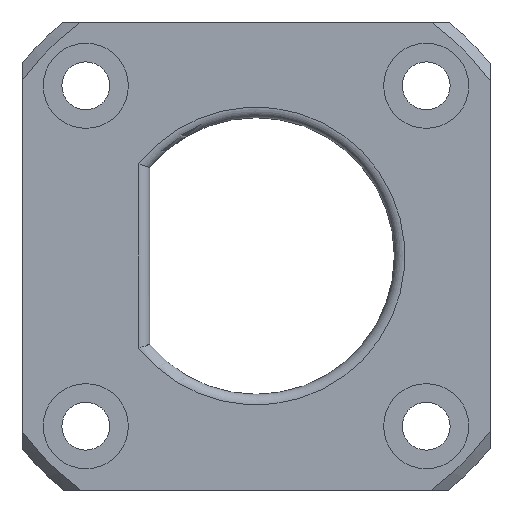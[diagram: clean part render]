
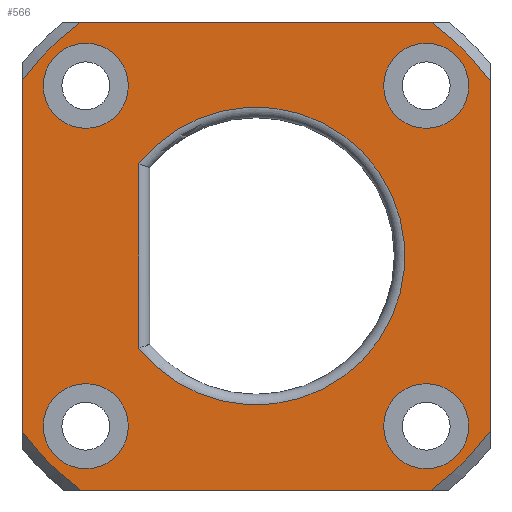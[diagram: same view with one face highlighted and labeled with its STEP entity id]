
A CAD part, left-side view. The second image highlights one B-rep face of the part: STEP entity #566.
In plain terms, the highlighted planar face has unit normal (-1, 0, 0).
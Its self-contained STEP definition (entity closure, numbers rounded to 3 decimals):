
#32=FACE_BOUND('',#151,.T.);
#33=FACE_BOUND('',#152,.T.);
#34=FACE_BOUND('',#153,.T.);
#35=FACE_BOUND('',#154,.T.);
#36=FACE_BOUND('',#155,.T.);
#53=CIRCLE('',#628,27.5);
#54=CIRCLE('',#630,27.5);
#55=CIRCLE('',#632,27.5);
#60=CIRCLE('',#643,14.);
#61=CIRCLE('',#645,27.5);
#62=CIRCLE('',#646,4.);
#63=CIRCLE('',#647,4.);
#64=CIRCLE('',#648,4.);
#65=CIRCLE('',#649,4.);
#109=FACE_OUTER_BOUND('',#150,.T.);
#150=EDGE_LOOP('',(#463,#464,#465,#466,#467,#468,#469,#470));
#151=EDGE_LOOP('',(#471));
#152=EDGE_LOOP('',(#472));
#153=EDGE_LOOP('',(#473));
#154=EDGE_LOOP('',(#474));
#155=EDGE_LOOP('',(#475,#476));
#187=LINE('',#863,#219);
#191=LINE('',#880,#223);
#195=LINE('',#897,#227);
#199=LINE('',#914,#231);
#206=LINE('',#995,#238);
#219=VECTOR('',#683,10.);
#223=VECTOR('',#689,10.);
#227=VECTOR('',#695,10.);
#231=VECTOR('',#701,10.);
#238=VECTOR('',#768,10.);
#252=VERTEX_POINT('',#858);
#253=VERTEX_POINT('',#862);
#258=VERTEX_POINT('',#875);
#259=VERTEX_POINT('',#879);
#264=VERTEX_POINT('',#892);
#265=VERTEX_POINT('',#896);
#270=VERTEX_POINT('',#909);
#271=VERTEX_POINT('',#913);
#285=VERTEX_POINT('',#993);
#286=VERTEX_POINT('',#994);
#287=VERTEX_POINT('',#1027);
#288=VERTEX_POINT('',#1029);
#289=VERTEX_POINT('',#1031);
#290=VERTEX_POINT('',#1033);
#303=EDGE_CURVE('',#253,#252,#187,.T.);
#309=EDGE_CURVE('',#259,#258,#191,.T.);
#315=EDGE_CURVE('',#265,#264,#195,.T.);
#321=EDGE_CURVE('',#271,#270,#199,.T.);
#336=EDGE_CURVE('',#265,#270,#53,.T.);
#337=EDGE_CURVE('',#253,#264,#54,.T.);
#338=EDGE_CURVE('',#271,#258,#55,.T.);
#349=EDGE_CURVE('',#285,#286,#206,.T.);
#353=EDGE_CURVE('',#286,#285,#60,.T.);
#354=EDGE_CURVE('',#259,#252,#61,.T.);
#355=EDGE_CURVE('',#287,#287,#62,.T.);
#356=EDGE_CURVE('',#288,#288,#63,.T.);
#357=EDGE_CURVE('',#289,#289,#64,.T.);
#358=EDGE_CURVE('',#290,#290,#65,.T.);
#463=ORIENTED_EDGE('',*,*,#303,.T.);
#464=ORIENTED_EDGE('',*,*,#354,.F.);
#465=ORIENTED_EDGE('',*,*,#309,.T.);
#466=ORIENTED_EDGE('',*,*,#338,.F.);
#467=ORIENTED_EDGE('',*,*,#321,.T.);
#468=ORIENTED_EDGE('',*,*,#336,.F.);
#469=ORIENTED_EDGE('',*,*,#315,.T.);
#470=ORIENTED_EDGE('',*,*,#337,.F.);
#471=ORIENTED_EDGE('',*,*,#355,.T.);
#472=ORIENTED_EDGE('',*,*,#356,.T.);
#473=ORIENTED_EDGE('',*,*,#357,.T.);
#474=ORIENTED_EDGE('',*,*,#358,.T.);
#475=ORIENTED_EDGE('',*,*,#349,.F.);
#476=ORIENTED_EDGE('',*,*,#353,.F.);
#544=PLANE('',#644);
#566=ADVANCED_FACE('',(#109,#32,#33,#34,#35,#36),#544,.T.);
#628=AXIS2_PLACEMENT_3D('',#942,#737,#738);
#630=AXIS2_PLACEMENT_3D('',#944,#741,#742);
#632=AXIS2_PLACEMENT_3D('',#946,#745,#746);
#643=AXIS2_PLACEMENT_3D('',#1024,#773,#774);
#644=AXIS2_PLACEMENT_3D('',#1025,#775,#776);
#645=AXIS2_PLACEMENT_3D('',#1026,#777,#778);
#646=AXIS2_PLACEMENT_3D('',#1028,#779,#780);
#647=AXIS2_PLACEMENT_3D('',#1030,#781,#782);
#648=AXIS2_PLACEMENT_3D('',#1032,#783,#784);
#649=AXIS2_PLACEMENT_3D('',#1034,#785,#786);
#683=DIRECTION('',(0.,1.,0.));
#689=DIRECTION('',(0.,0.,-1.));
#695=DIRECTION('',(0.,0.,1.));
#701=DIRECTION('',(0.,-1.,0.));
#737=DIRECTION('center_axis',(1.,0.,0.));
#738=DIRECTION('ref_axis',(0.,0.,-1.));
#741=DIRECTION('center_axis',(1.,0.,0.));
#742=DIRECTION('ref_axis',(0.,0.,-1.));
#745=DIRECTION('center_axis',(1.,0.,0.));
#746=DIRECTION('ref_axis',(0.,0.,-1.));
#768=DIRECTION('',(0.,0.,-1.));
#773=DIRECTION('center_axis',(-1.,0.,0.));
#774=DIRECTION('ref_axis',(0.,-1.,0.));
#775=DIRECTION('center_axis',(-1.,0.,0.));
#776=DIRECTION('ref_axis',(0.,0.,1.));
#777=DIRECTION('center_axis',(1.,0.,0.));
#778=DIRECTION('ref_axis',(0.,0.,-1.));
#779=DIRECTION('center_axis',(1.,0.,0.));
#780=DIRECTION('ref_axis',(0.,0.,1.));
#781=DIRECTION('center_axis',(1.,0.,0.));
#782=DIRECTION('ref_axis',(0.,-1.,0.));
#783=DIRECTION('center_axis',(1.,0.,0.));
#784=DIRECTION('ref_axis',(0.,0.,-1.));
#785=DIRECTION('center_axis',(1.,0.,0.));
#786=DIRECTION('ref_axis',(0.,1.,0.));
#858=CARTESIAN_POINT('',(0.,16.5,22.));
#862=CARTESIAN_POINT('',(0.,-16.5,22.));
#863=CARTESIAN_POINT('',(0.,4.691,22.));
#875=CARTESIAN_POINT('',(0.,22.,-16.5));
#879=CARTESIAN_POINT('',(0.,22.,16.5));
#880=CARTESIAN_POINT('',(0.,22.,9.059));
#892=CARTESIAN_POINT('',(0.,-22.,16.5));
#896=CARTESIAN_POINT('',(0.,-22.,-16.5));
#897=CARTESIAN_POINT('',(0.,-22.,-9.059));
#909=CARTESIAN_POINT('',(0.,-16.5,-22.));
#913=CARTESIAN_POINT('',(0.,16.5,-22.));
#914=CARTESIAN_POINT('',(0.,22.809,-22.));
#942=CARTESIAN_POINT('Origin',(0.,0.,0.));
#944=CARTESIAN_POINT('Origin',(0.,0.,0.));
#946=CARTESIAN_POINT('Origin',(0.,0.,0.));
#993=CARTESIAN_POINT('',(0.,11.,8.66));
#994=CARTESIAN_POINT('',(0.,11.,-8.66));
#995=CARTESIAN_POINT('',(0.,11.,-4.153));
#1024=CARTESIAN_POINT('Origin',(0.,0.,0.));
#1025=CARTESIAN_POINT('Origin',(0.,27.5,0.));
#1026=CARTESIAN_POINT('Origin',(0.,0.,0.));
#1027=CARTESIAN_POINT('',(0.,16.,12.));
#1028=CARTESIAN_POINT('Origin',(0.,16.,16.));
#1029=CARTESIAN_POINT('',(0.,-12.,16.));
#1030=CARTESIAN_POINT('Origin',(0.,-16.,16.));
#1031=CARTESIAN_POINT('',(0.,-16.,-12.));
#1032=CARTESIAN_POINT('Origin',(0.,-16.,-16.));
#1033=CARTESIAN_POINT('',(0.,12.,-16.));
#1034=CARTESIAN_POINT('Origin',(0.,16.,-16.));
